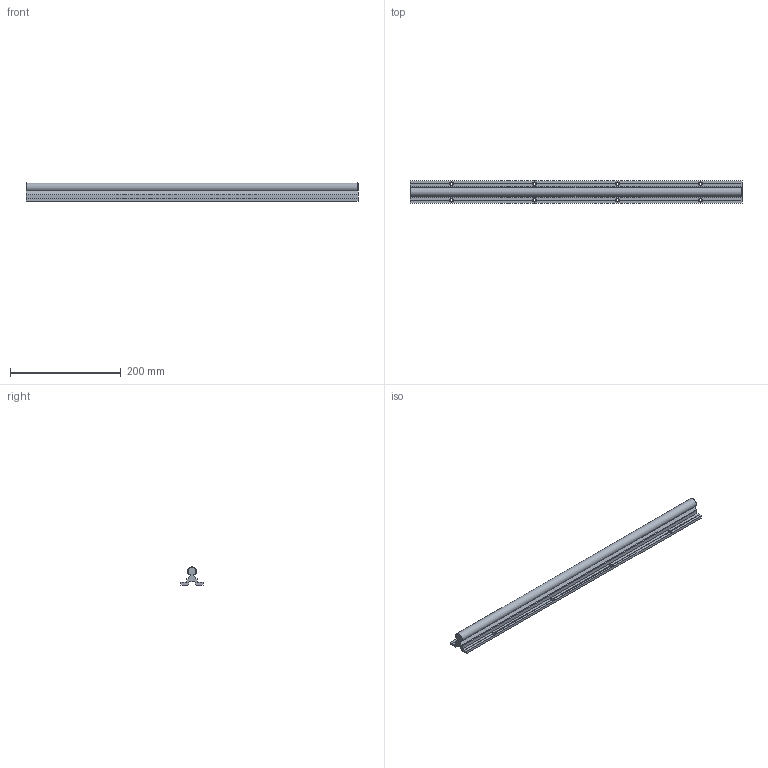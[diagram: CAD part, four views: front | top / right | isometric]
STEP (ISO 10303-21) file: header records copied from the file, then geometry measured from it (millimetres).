
FILE_DESCRIPTION(/* description */ (''),/* implementation_level */ '2;1');
FILE_NAME(/* name */ 'C:\Users\David\Desktop\stepFiles\Profilfuehrung\LFS16x600.stp',/* time_stamp */ '2018-06-24T15:18:12+02:00',/* author */ ('Buskamp'),/* organization */ (''),/* preprocessor_version */ 'ST-DEVELOPER v17',/* originating_system */ 'Autodesk Inventor 2019',/* authorisation */ '');
FILE_SCHEMA (('AUTOMOTIVE_DESIGN { 1 0 10303 214 3 1 1 }'));
Length unit declared in the file: millimetre
Products named in the file (1): Linearführung D16xvariabel
Bounding box: 600 x 40 x 32.97 mm (x, y, z)
Volume: 306381.6 mm3; surface area: 94757.4 mm2
Topology: 1 solids, 1 shells, 76 faces, 222 edges, 140 vertices
Faces by surface type: plane 49, cone 18, cylinder 9
Full cylindrical faces by diameter (mm): 5.5 x8
Entity records: 2545 total; most frequent: CARTESIAN_POINT 511, ORIENTED_EDGE 444, DIRECTION 416, EDGE_CURVE 222, AXIS2_PLACEMENT_3D 153, VERTEX_POINT 140, LINE 110, VECTOR 110
